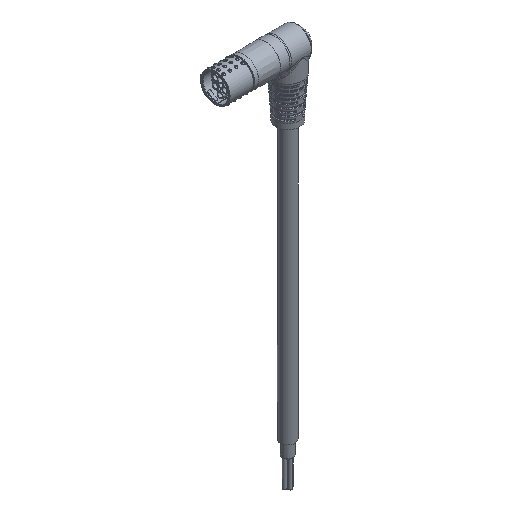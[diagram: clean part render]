
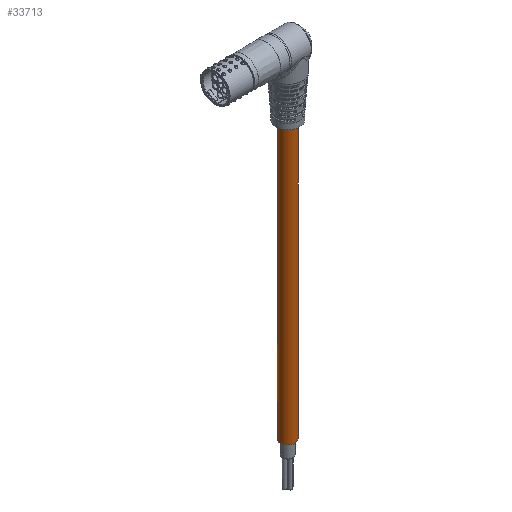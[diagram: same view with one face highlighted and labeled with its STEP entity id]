
A CAD part, isometric view. The second image highlights one B-rep face of the part: STEP entity #33713.
In plain terms, the highlighted cylindrical face has radius 5.3 mm (diameter 10.6 mm), a full revolution.
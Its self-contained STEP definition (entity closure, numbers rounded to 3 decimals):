
#729 = EDGE_LOOP ( 'NONE', ( #25476 ) ) ;
#885 = DIRECTION ( 'NONE',  ( 0., 0., 1. ) ) ;
#2144 = CARTESIAN_POINT ( 'NONE',  ( -40.095, 37.872, -259.463 ) ) ;
#2938 = EDGE_LOOP ( 'NONE', ( #21701 ) ) ;
#3194 = EDGE_CURVE ( 'NONE', #17150, #17150, #10030, .T. ) ;
#6952 = DIRECTION ( 'NONE',  ( 0., 0., 1. ) ) ;
#7133 = CARTESIAN_POINT ( 'NONE',  ( -43.259, 42.123, -259.463 ) ) ;
#8630 = EDGE_CURVE ( 'NONE', #11319, #11319, #20963, .T. ) ;
#10030 = CIRCLE ( 'NONE', #13048, 5.3 ) ;
#11319 = VERTEX_POINT ( 'NONE', #13761 ) ;
#13048 = AXIS2_PLACEMENT_3D ( 'NONE', #7133, #6952, #35712 ) ;
#13761 = CARTESIAN_POINT ( 'NONE',  ( -40.095, 37.872, -59.463 ) ) ;
#15153 = FACE_OUTER_BOUND ( 'NONE', #2938, .T. ) ;
#16433 = AXIS2_PLACEMENT_3D ( 'NONE', #26634, #885, #22887 ) ;
#17150 = VERTEX_POINT ( 'NONE', #2144 ) ;
#18611 = DIRECTION ( 'NONE',  ( 0., 0., 1. ) ) ;
#20070 = CYLINDRICAL_SURFACE ( 'NONE', #16433, 5.3 ) ;
#20963 = CIRCLE ( 'NONE', #20991, 5.3 ) ;
#20991 = AXIS2_PLACEMENT_3D ( 'NONE', #32533, #18611, #30074 ) ;
#21701 = ORIENTED_EDGE ( 'NONE', *, *, #3194, .T. ) ;
#22887 = DIRECTION ( 'NONE',  ( 0.597, -0.802, 0. ) ) ;
#25476 = ORIENTED_EDGE ( 'NONE', *, *, #8630, .F. ) ;
#26269 = FACE_OUTER_BOUND ( 'NONE', #729, .T. ) ;
#26634 = CARTESIAN_POINT ( 'NONE',  ( -43.259, 42.123, -259.463 ) ) ;
#30074 = DIRECTION ( 'NONE',  ( 0.597, -0.802, 0. ) ) ;
#32533 = CARTESIAN_POINT ( 'NONE',  ( -43.259, 42.123, -59.463 ) ) ;
#33713 = ADVANCED_FACE ( 'NONE', ( #15153, #26269 ), #20070, .T. ) ;
#35712 = DIRECTION ( 'NONE',  ( 0.597, -0.802, 0. ) ) ;
